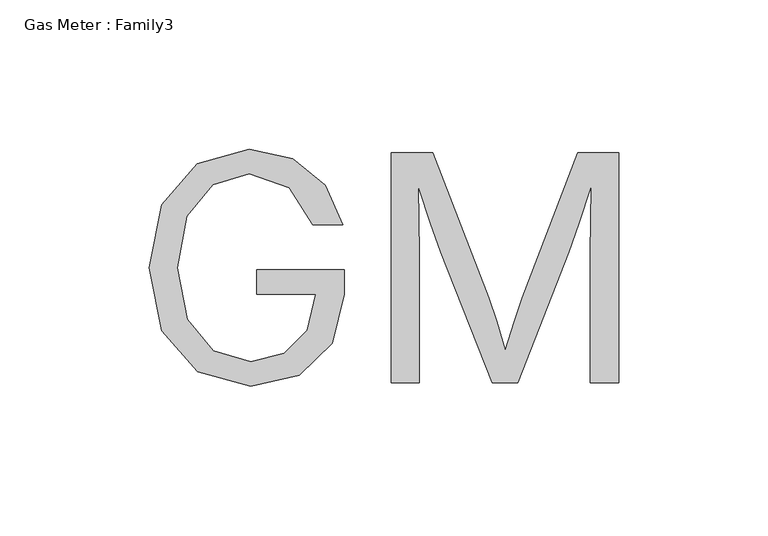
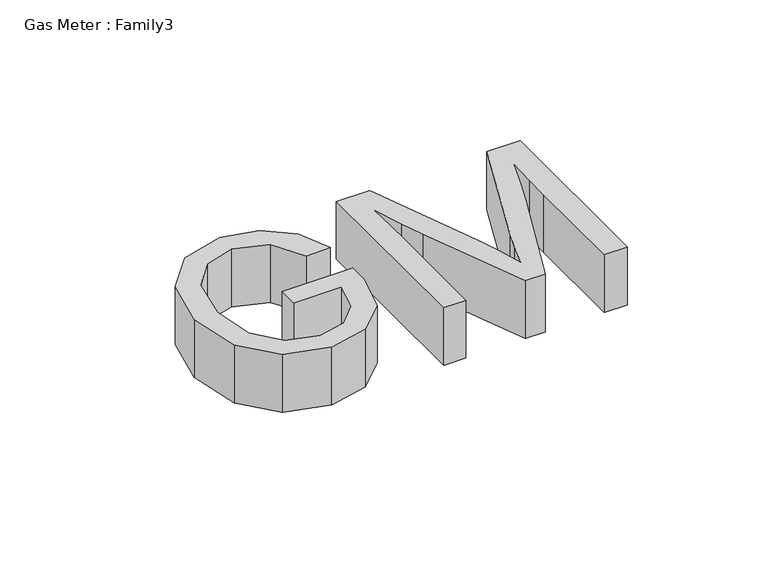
"""IFC4 building model written with IfcOpenShell, lengths in millimetres: proxy geometry, Gas Meter : Family3."""

import ifcopenshell
import ifcopenshell.guid

model = None  # the IFC model being written
_history = None  # IfcOwnerHistory: only IFC2X3 demands one
_inside = {}  # id of a spatial element -> (the spatial element, [elements in it])
_under = {}  # id of a project, library or spatial element -> (it, [spatial elements below it])
_declared = {}  # id of a project -> (the project, [libraries it declares])
_typed = {}  # id of a type object -> (the type object, [elements of that type])
_made_of = {}  # id of a material, layer set ... -> (it, [elements and type objects made of it])


def new_model(schema):
    """Start an empty IFC model of exactly this schema.

    Asked for "IFC4X3", IfcOpenShell would pick the latest addendum, in which some entities
    have other attributes; the version numbers below select the first issue.
    IFC2X3 requires an IfcOwnerHistory on every rooted entity: one is made here for all.
    """
    global model, _history
    if schema == "IFC4X3":
        model = ifcopenshell.file(schema_version=(4, 3, 0, 0))
    else:
        model = ifcopenshell.file(schema=schema)
    _inside.clear()
    _under.clear()
    _declared.clear()
    _typed.clear()
    _made_of.clear()
    _history = None
    if model.schema == "IFC2X3":
        org = make("IfcOrganization", Name="unknown")
        user = make(
            "IfcPersonAndOrganization",
            ThePerson=make("IfcPerson", FamilyName="unknown"),
            TheOrganization=org,
        )
        app = make(
            "IfcApplication",
            ApplicationDeveloper=org,
            Version="unknown",
            ApplicationFullName="unknown",
            ApplicationIdentifier="unknown",
        )
        _history = make(
            "IfcOwnerHistory",
            OwningUser=user,
            OwningApplication=app,
            ChangeAction="ADDED",
            CreationDate=0,
        )
    return model


def make(cls, **values):
    """One entity of the class cls with the attributes given. An attribute that is None is left unset."""
    return model.create_entity(
        cls, **{name: value for name, value in values.items() if value is not None}
    )


def rooted(cls, **values):
    """An entity with a GlobalId (a new one), such as an element, a storey or a relation."""
    return make(cls, GlobalId=ifcopenshell.guid.new(), OwnerHistory=_history, **values)


def si_unit(unit_type, name, prefix=None):
    """IfcSIUnit, for example si_unit("LENGTHUNIT", "METRE", prefix="MILLI")."""
    return make("IfcSIUnit", UnitType=unit_type, Prefix=prefix, Name=name)


def assignment(units):
    """IfcUnitAssignment: the units of a project."""
    return None if units is None else make("IfcUnitAssignment", Units=units)


def point(xyz):
    """IfcCartesianPoint."""
    return None if xyz is None else make("IfcCartesianPoint", Coordinates=xyz)


def direction(xyz):
    """IfcDirection."""
    return None if xyz is None else make("IfcDirection", DirectionRatios=xyz)


def frame(location, z_axis=None, x_axis=None):
    """IfcAxis2Placement3D, a coordinate frame: its origin and axes. An axis left out is left unset."""
    return make(
        "IfcAxis2Placement3D",
        Location=point(location),
        Axis=direction(z_axis),
        RefDirection=direction(x_axis),
    )


def origin():
    """The frame at (0, 0, 0) with its axes left unset."""
    return frame((0.0, 0.0, 0.0))


def origin_with_axes():
    """The frame at (0, 0, 0) with the z axis (0, 0, 1) and the x axis (1, 0, 0) written out."""
    return frame((0.0, 0.0, 0.0), z_axis=(0.0, 0.0, 1.0), x_axis=(1.0, 0.0, 0.0))


def place(relative_to, where):
    """IfcLocalPlacement: puts the frame where relative to a parent placement (None: the world)."""
    return make(
        "IfcLocalPlacement", PlacementRelTo=relative_to, RelativePlacement=where
    )


def context(
    kind, dimensions, precision=None, world=None, true_north=None, identifier=None
):
    """IfcGeometricRepresentationContext, for example the 3D "Model" context."""
    return make(
        "IfcGeometricRepresentationContext",
        ContextIdentifier=identifier,
        ContextType=kind,
        CoordinateSpaceDimension=dimensions,
        Precision=precision,
        WorldCoordinateSystem=world,
        TrueNorth=true_north,
    )


def project(units=None, contexts=None):
    """IfcProject with its units and contexts."""
    return rooted(
        "IfcProject",
        Name="project",
        RepresentationContexts=contexts,
        UnitsInContext=assignment(units),
    )


def spatial(cls, under=None, at=None, **own):
    """A site, building, storey or space (cls), placed at a placement, below another one or the project."""
    s = rooted(cls, ObjectPlacement=at, **own)
    if under is not None:
        _under.setdefault(under.id(), (under, []))[1].append(s)
    return s


def polyline(points):
    """IfcPolyline through the points."""
    return make("IfcPolyline", Points=[point(p) for p in points])


def outline(outer, holes=None, kind="AREA"):
    """IfcArbitraryClosedProfileDef: a profile drawn as a closed curve; with holes, ...WithVoids."""
    if holes is None:
        return make("IfcArbitraryClosedProfileDef", ProfileType=kind, OuterCurve=outer)
    return make(
        "IfcArbitraryProfileDefWithVoids",
        ProfileType=kind,
        OuterCurve=outer,
        InnerCurves=holes,
    )


def extrude(swept, where, along, depth):
    """IfcExtrudedAreaSolid: the profile swept, set in the frame where, extruded along a direction by depth."""
    return make(
        "IfcExtrudedAreaSolid",
        SweptArea=swept,
        Position=where,
        ExtrudedDirection=direction(along),
        Depth=depth,
    )


def shape(context_of_items, identifier, shape_type, items):
    """IfcShapeRepresentation: the items that make up one representation, for example the "Body"."""
    return make(
        "IfcShapeRepresentation",
        ContextOfItems=context_of_items,
        RepresentationIdentifier=identifier,
        RepresentationType=shape_type,
        Items=items,
    )


def source(mapping_origin, context_of_items, identifier, shape_type, items):
    """IfcRepresentationMap: a shape defined once, which mapped items show again and again."""
    return make(
        "IfcRepresentationMap",
        MappingOrigin=mapping_origin,
        MappedRepresentation=shape(context_of_items, identifier, shape_type, items),
    )


def transform(
    local_origin,
    x_axis=None,
    y_axis=None,
    z_axis=None,
    scale=None,
    scale2=None,
    scale3=None,
    uniform=True,
):
    """IfcCartesianTransformationOperator3D, or its non-uniform kind. x_axis, y_axis, z_axis: its Axis1, 2, 3."""
    if uniform:
        return make(
            "IfcCartesianTransformationOperator3D",
            Axis1=direction(x_axis),
            Axis2=direction(y_axis),
            LocalOrigin=point(local_origin),
            Scale=scale,
            Axis3=direction(z_axis),
        )
    return make(
        "IfcCartesianTransformationOperator3DnonUniform",
        Axis1=direction(x_axis),
        Axis2=direction(y_axis),
        LocalOrigin=point(local_origin),
        Scale=scale,
        Axis3=direction(z_axis),
        Scale2=scale2,
        Scale3=scale3,
    )


def mapped(mapping_source, mapping_target):
    """IfcMappedItem: shows the shape of a source again, moved by a transform."""
    return make(
        "IfcMappedItem", MappingSource=mapping_source, MappingTarget=mapping_target
    )


def made_of(thing, what):
    """Note that an element or type object is made of a material, layer set ...; save() writes the relation."""
    if what is not None:
        _made_of.setdefault(what.id(), (what, []))[1].append(thing)
    return thing


def element(
    cls,
    number,
    at=None,
    inside=None,
    cuts=None,
    type_object=None,
    material=None,
    context=None,
    identifier="Body",
    shape_type=None,
    held_by="IfcProductDefinitionShape",
    body=None,
    shapes=None,
    **own,
):
    """One element of the class cls, such as IfcWall. Its Tag is "e" and its number.

    at: its placement. inside: the storey or other place that contains it. cuts: it is an
    opening in that element (IfcRelVoidsElement). A single representation is given by context,
    identifier, shape_type and body (its items); several are given by shapes. held_by: the class
    of the entity that holds the representations. save() writes the other relations.
    """
    e = rooted(cls, Tag="e%d" % number, ObjectPlacement=at, **own)
    if body is not None:
        shapes = [shape(context, identifier, shape_type, body)]
    if shapes is not None:
        e.Representation = make(held_by, Representations=shapes)
    if inside is not None:
        _inside.setdefault(inside.id(), (inside, []))[1].append(e)
    if cuts is not None:
        rooted(
            "IfcRelVoidsElement", RelatingBuildingElement=cuts, RelatedOpeningElement=e
        )
    if type_object is not None:
        _typed.setdefault(type_object.id(), (type_object, []))[1].append(e)
    return made_of(e, material)


def aggregate(whole, parts):
    """IfcRelAggregates: a whole, such as a stair, and the parts it consists of."""
    return rooted("IfcRelAggregates", RelatingObject=whole, RelatedObjects=parts)


def save(model, path):
    """Write the relations noted so far, then the file.

    IfcRelAggregates (storeys below a building ...), IfcRelContainedInSpatialStructure (elements
    in a storey), IfcRelDefinesByType, IfcRelAssociatesMaterial and IfcRelDeclares: one each for
    every whole, place, type object, material and project.
    """
    for whole, parts in _under.values():
        aggregate(whole, parts)
    for where, things in _inside.values():
        rooted(
            "IfcRelContainedInSpatialStructure",
            RelatedElements=things,
            RelatingStructure=where,
        )
    for kind, things in _typed.values():
        rooted("IfcRelDefinesByType", RelatedObjects=things, RelatingType=kind)
    for what, things in _made_of.values():
        rooted("IfcRelAssociatesMaterial", RelatedObjects=things, RelatingMaterial=what)
    for by, libraries in _declared.values():
        rooted("IfcRelDeclares", RelatingContext=by, RelatedDefinitions=libraries)
    model.write(path)


def gas_meter_family3_9a0b9436(model_context):
    return source(origin(), model_context, "Body", "SweptSolid", [
        extrude(outline(polyline([(137.7616053, 84.4927218), (119.911031, 89.3251978), (107.9383254, 103.0730986), (103.638408, 124.1979219), (107.9383254, 145.4410915), (119.812409, 159.1889923), (137.1501491, 164.0214683), (151.8152342, 160.8162546), (162.7425471, 151.9106919), (168.4724828, 138.6559008), (158.4327675, 138.6559008), (150.6909439, 151.1414406), (137.2093223, 155.7569482), (125.0295106, 152.1473846), (116.3310539, 141.5060754), (113.1061159, 124.1979219), (116.3606405, 107.0377013), (125.1873057, 96.3963921), (137.7616053, 92.7572419), (148.9749218, 95.5087945), (156.6279857, 103.3393779), (159.5176091, 115.3613945), (139.7734932, 115.3613945), (139.7734932, 123.6259145), (169.0247658, 123.6259145), (169.0247658, 115.3219457), (164.9812655, 98.9901496), (153.9060197, 88.279805), (137.7616053, 84.4927218)])), origin_with_axes(), (0.0, 0.0, 1.0), 25.4),
        extrude(outline(polyline([(184.8831765, 85.7550829), (184.8831765, 162.7591072), (198.6902505, 162.7591072), (217.4678712, 114.1187578), (220.1306641, 106.2980366), (223.0893228, 96.5640494), (226.0183949, 106.1698281), (228.7304987, 114.1187578), (247.2517023, 162.7591072), (261.1179495, 162.7591072), (261.1179495, 85.7550829), (251.5516197, 85.7550829), (251.5516197, 129.4051612), (251.6502416, 139.7111558), (251.9066587, 151.7726212), (247.6757768, 139.0010777), (244.2338704, 129.4051612), (227.1919962, 85.7550829), (218.7499567, 85.7550829), (201.4516653, 129.4051612), (198.0985188, 138.764385), (193.7788771, 151.614826), (194.0057076, 139.9971594), (194.1339161, 129.4051612), (194.1339161, 85.7550829), (184.8831765, 85.7550829)])), origin_with_axes(), (0.0, 0.0, 1.0), 25.4),
    ])


if __name__ == "__main__":
    model = new_model("IFC4")
    model_context = context("Model", 3, world=origin())
    ifc_project = project(units=[si_unit("LENGTHUNIT", "METRE", prefix="MILLI")], contexts=[model_context])
    site = spatial("IfcSite", under=ifc_project)
    building = spatial("IfcBuilding", under=site)
    placement = place(None, origin())
    gas_meter_family3_shape = gas_meter_family3_9a0b9436(model_context)
    element("IfcBuildingElementProxy", 1, Name="Gas Meter : Family3", ObjectType="Gas Meter : Family3", at=placement, inside=building, context=model_context, shape_type="MappedRepresentation", body=[
        mapped(gas_meter_family3_shape, transform((0.0, 0.0, 0.0), x_axis=(1.0, 0.0, 0.0), y_axis=(0.0, 1.0, 0.0), z_axis=(0.0, 0.0, 1.0))),
    ])
    save(model, "model.ifc")
